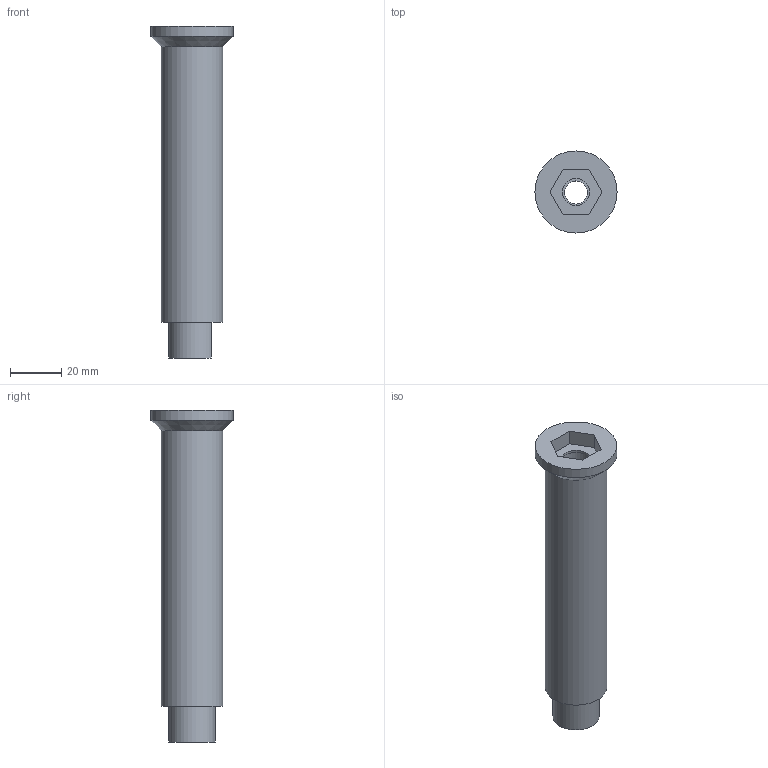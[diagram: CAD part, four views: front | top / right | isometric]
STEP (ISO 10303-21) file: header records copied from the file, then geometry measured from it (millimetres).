
FILE_DESCRIPTION(('Open CASCADE Model'),'2;1');
FILE_NAME('Open CASCADE Shape Model','2026-10-16T13:31:54',('Author'),( 'Open CASCADE'),'Open CASCADE STEP processor 7.9','Open CASCADE 7.9' ,'Unknown');
FILE_SCHEMA(('AUTOMOTIVE_DESIGN { 1 0 10303 214 1 1 1 1 }'));
Length unit declared in the file: millimetre
Products named in the file (1): Open CASCADE STEP translator 7.9 4
Bounding box: 32 x 32 x 129.5 mm (x, y, z)
Volume: 42904.5 mm3; surface area: 15851.2 mm2
Topology: 1 solids, 1 shells, 20 faces, 40 edges, 26 vertices
Faces by surface type: plane 13, cylinder 6, cone 1
Full cylindrical faces by diameter (mm): 9 x1, 10.6 x1, 12 x1, 24 x1, 32 x1
Entity records: 1051 total; most frequent: CARTESIAN_POINT 215, DIRECTION 151, ORIENTED_EDGE 80, LINE 80, VECTOR 80, PCURVE 80, DEFINITIONAL_REPRESENTATION 80, EDGE_CURVE 40
